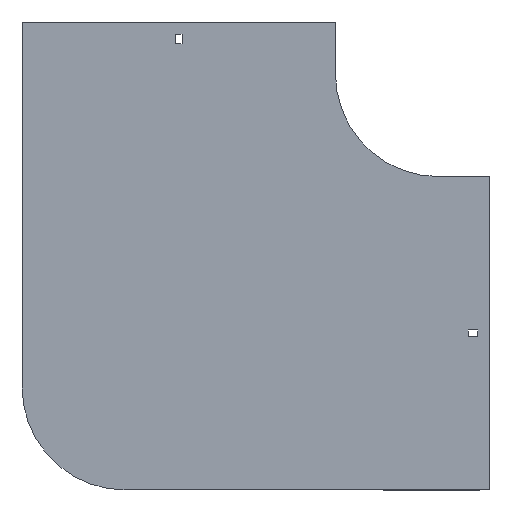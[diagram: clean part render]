
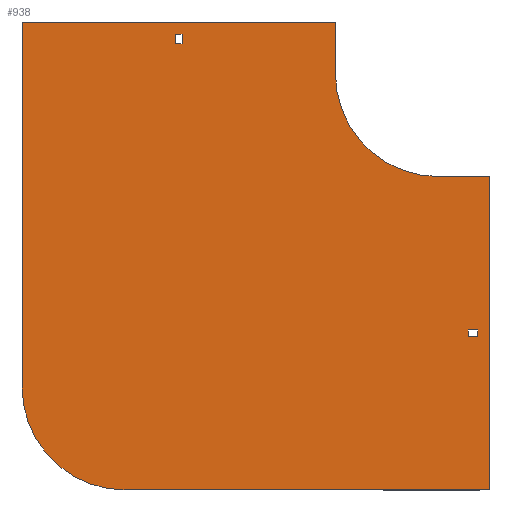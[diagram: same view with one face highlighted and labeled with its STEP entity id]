
A CAD part, front view. The second image highlights one B-rep face of the part: STEP entity #938.
In plain terms, the highlighted planar face has unit normal (0, -1, 0).
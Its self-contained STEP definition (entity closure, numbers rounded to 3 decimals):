
#1 = VERTEX_POINT ( 'NONE', #119 ) ;
#13 = EDGE_CURVE ( 'NONE', #147, #557, #1212, .T. ) ;
#16 = AXIS2_PLACEMENT_3D ( 'NONE', #138, #1343, #784 ) ;
#21 = CARTESIAN_POINT ( 'NONE',  ( -404., 0., 50. ) ) ;
#38 = VECTOR ( 'NONE', #1201, 1000. ) ;
#39 = VECTOR ( 'NONE', #490, 1000. ) ;
#41 = CARTESIAN_POINT ( 'NONE',  ( 38., 0., -248.75 ) ) ;
#48 = EDGE_LOOP ( 'NONE', ( #1076, #209, #1285, #344 ) ) ;
#60 = ORIENTED_EDGE ( 'NONE', *, *, #419, .T. ) ;
#69 = DIRECTION ( 'NONE',  ( 0., -1., 0. ) ) ;
#72 = CARTESIAN_POINT ( 'NONE',  ( 29., 0., -255.25 ) ) ;
#107 = VECTOR ( 'NONE', #417, 1000. ) ;
#111 = EDGE_CURVE ( 'NONE', #1, #452, #981, .T. ) ;
#119 = CARTESIAN_POINT ( 'NONE',  ( 38., 0., -255.25 ) ) ;
#138 = CARTESIAN_POINT ( 'NONE',  ( 0., 0., 0. ) ) ;
#141 = VERTEX_POINT ( 'NONE', #244 ) ;
#147 = VERTEX_POINT ( 'NONE', #681 ) ;
#158 = DIRECTION ( 'NONE',  ( -1., 0., 0. ) ) ;
#183 = CARTESIAN_POINT ( 'NONE',  ( -255.25, 0., 29. ) ) ;
#184 = CARTESIAN_POINT ( 'NONE',  ( -404., 0., -304. ) ) ;
#209 = ORIENTED_EDGE ( 'NONE', *, *, #466, .F. ) ;
#211 = ORIENTED_EDGE ( 'NONE', *, *, #698, .F. ) ;
#212 = VERTEX_POINT ( 'NONE', #1252 ) ;
#217 = CIRCLE ( 'NONE', #398, 100. ) ;
#218 = VERTEX_POINT ( 'NONE', #72 ) ;
#229 = VECTOR ( 'NONE', #158, 1000. ) ;
#244 = CARTESIAN_POINT ( 'NONE',  ( 50., 0., -100. ) ) ;
#269 = DIRECTION ( 'NONE',  ( 0., 0., -1. ) ) ;
#281 = VECTOR ( 'NONE', #1280, 1000. ) ;
#284 = ORIENTED_EDGE ( 'NONE', *, *, #817, .F. ) ;
#290 = CARTESIAN_POINT ( 'NONE',  ( 29., 0., -248.75 ) ) ;
#292 = DIRECTION ( 'NONE',  ( 0., 0., -1. ) ) ;
#329 = ORIENTED_EDGE ( 'NONE', *, *, #1042, .F. ) ;
#339 = CARTESIAN_POINT ( 'NONE',  ( 38., 0., -255.25 ) ) ;
#342 = CARTESIAN_POINT ( 'NONE',  ( -248.75, 0., 38. ) ) ;
#344 = ORIENTED_EDGE ( 'NONE', *, *, #1381, .F. ) ;
#370 = VECTOR ( 'NONE', #1018, 1000. ) ;
#372 = FACE_BOUND ( 'NONE', #1242, .T. ) ;
#383 = EDGE_CURVE ( 'NONE', #642, #608, #217, .T. ) ;
#398 = AXIS2_PLACEMENT_3D ( 'NONE', #1074, #627, #446 ) ;
#417 = DIRECTION ( 'NONE',  ( 0., 0., 1. ) ) ;
#419 = EDGE_CURVE ( 'NONE', #898, #685, #802, .T. ) ;
#423 = EDGE_CURVE ( 'NONE', #685, #926, #1324, .T. ) ;
#445 = CARTESIAN_POINT ( 'NONE',  ( -255.25, 0., 38. ) ) ;
#446 = DIRECTION ( 'NONE',  ( 0., 0., 1. ) ) ;
#452 = VERTEX_POINT ( 'NONE', #41 ) ;
#456 = LINE ( 'NONE', #990, #651 ) ;
#466 = EDGE_CURVE ( 'NONE', #218, #1, #678, .T. ) ;
#467 = DIRECTION ( 'NONE',  ( 1., 0., 0. ) ) ;
#472 = CARTESIAN_POINT ( 'NONE',  ( 29., 0., -248.75 ) ) ;
#482 = CARTESIAN_POINT ( 'NONE',  ( -255.25, 0., 29. ) ) ;
#490 = DIRECTION ( 'NONE',  ( 0., 0., -1. ) ) ;
#492 = VERTEX_POINT ( 'NONE', #1332 ) ;
#497 = CARTESIAN_POINT ( 'NONE',  ( 0., 0., 0. ) ) ;
#503 = LINE ( 'NONE', #943, #1151 ) ;
#511 = VECTOR ( 'NONE', #1316, 1000. ) ;
#518 = ORIENTED_EDGE ( 'NONE', *, *, #1102, .F. ) ;
#533 = VECTOR ( 'NONE', #779, 1000. ) ;
#552 = LINE ( 'NONE', #1314, #107 ) ;
#557 = VERTEX_POINT ( 'NONE', #1143 ) ;
#593 = EDGE_CURVE ( 'NONE', #1273, #218, #1073, .T. ) ;
#595 = ORIENTED_EDGE ( 'NONE', *, *, #383, .F. ) ;
#608 = VERTEX_POINT ( 'NONE', #184 ) ;
#622 = CARTESIAN_POINT ( 'NONE',  ( 0., 0., -100. ) ) ;
#627 = DIRECTION ( 'NONE',  ( 0., 1., 0. ) ) ;
#631 = VECTOR ( 'NONE', #1240, 1000. ) ;
#634 = CIRCLE ( 'NONE', #16, 100. ) ;
#642 = VERTEX_POINT ( 'NONE', #1174 ) ;
#650 = LINE ( 'NONE', #739, #1307 ) ;
#651 = VECTOR ( 'NONE', #1229, 1000. ) ;
#664 = EDGE_CURVE ( 'NONE', #926, #786, #552, .T. ) ;
#672 = VECTOR ( 'NONE', #467, 1000. ) ;
#678 = LINE ( 'NONE', #1230, #672 ) ;
#681 = CARTESIAN_POINT ( 'NONE',  ( -404., 0., 50. ) ) ;
#685 = VERTEX_POINT ( 'NONE', #1300 ) ;
#693 = VECTOR ( 'NONE', #1191, 1000. ) ;
#698 = EDGE_CURVE ( 'NONE', #141, #1291, #980, .T. ) ;
#711 = ORIENTED_EDGE ( 'NONE', *, *, #846, .F. ) ;
#731 = LINE ( 'NONE', #622, #281 ) ;
#739 = CARTESIAN_POINT ( 'NONE',  ( 50., 0., -404. ) ) ;
#779 = DIRECTION ( 'NONE',  ( 0., 0., -1. ) ) ;
#784 = DIRECTION ( 'NONE',  ( 0., 0., -1. ) ) ;
#786 = VERTEX_POINT ( 'NONE', #445 ) ;
#789 = CARTESIAN_POINT ( 'NONE',  ( -404., 0., -304. ) ) ;
#791 = ORIENTED_EDGE ( 'NONE', *, *, #1008, .F. ) ;
#802 = LINE ( 'NONE', #1012, #533 ) ;
#807 = FACE_OUTER_BOUND ( 'NONE', #1354, .T. ) ;
#817 = EDGE_CURVE ( 'NONE', #212, #492, #634, .T. ) ;
#820 = LINE ( 'NONE', #290, #229 ) ;
#831 = PLANE ( 'NONE',  #1265 ) ;
#846 = EDGE_CURVE ( 'NONE', #608, #147, #1238, .T. ) ;
#860 = EDGE_CURVE ( 'NONE', #786, #898, #456, .T. ) ;
#864 = CARTESIAN_POINT ( 'NONE',  ( 50., 0., -100. ) ) ;
#883 = CARTESIAN_POINT ( 'NONE',  ( 50., 0., -404. ) ) ;
#898 = VERTEX_POINT ( 'NONE', #342 ) ;
#926 = VERTEX_POINT ( 'NONE', #183 ) ;
#931 = ORIENTED_EDGE ( 'NONE', *, *, #13, .F. ) ;
#938 = ADVANCED_FACE ( 'NONE', ( #372, #807, #1062 ), #831, .T. ) ;
#943 = CARTESIAN_POINT ( 'NONE',  ( -100., 0., 50. ) ) ;
#963 = DIRECTION ( 'NONE',  ( -1., 0., 0. ) ) ;
#980 = LINE ( 'NONE', #864, #693 ) ;
#981 = LINE ( 'NONE', #339, #38 ) ;
#990 = CARTESIAN_POINT ( 'NONE',  ( -255.25, 0., 38. ) ) ;
#1008 = EDGE_CURVE ( 'NONE', #557, #212, #503, .T. ) ;
#1012 = CARTESIAN_POINT ( 'NONE',  ( -248.75, 0., 29. ) ) ;
#1018 = DIRECTION ( 'NONE',  ( 0., 0., 1. ) ) ;
#1042 = EDGE_CURVE ( 'NONE', #492, #141, #731, .T. ) ;
#1062 = FACE_BOUND ( 'NONE', #48, .T. ) ;
#1073 = LINE ( 'NONE', #1266, #39 ) ;
#1074 = CARTESIAN_POINT ( 'NONE',  ( -304., 0., -304. ) ) ;
#1076 = ORIENTED_EDGE ( 'NONE', *, *, #111, .F. ) ;
#1081 = ORIENTED_EDGE ( 'NONE', *, *, #860, .T. ) ;
#1102 = EDGE_CURVE ( 'NONE', #1291, #642, #650, .T. ) ;
#1143 = CARTESIAN_POINT ( 'NONE',  ( -100., 0., 50. ) ) ;
#1148 = ORIENTED_EDGE ( 'NONE', *, *, #423, .T. ) ;
#1151 = VECTOR ( 'NONE', #292, 1000. ) ;
#1174 = CARTESIAN_POINT ( 'NONE',  ( -304., 0., -404. ) ) ;
#1191 = DIRECTION ( 'NONE',  ( 0., 0., -1. ) ) ;
#1193 = ORIENTED_EDGE ( 'NONE', *, *, #664, .T. ) ;
#1201 = DIRECTION ( 'NONE',  ( 0., 0., 1. ) ) ;
#1212 = LINE ( 'NONE', #21, #511 ) ;
#1229 = DIRECTION ( 'NONE',  ( 1., 0., 0. ) ) ;
#1230 = CARTESIAN_POINT ( 'NONE',  ( 29., 0., -255.25 ) ) ;
#1238 = LINE ( 'NONE', #789, #370 ) ;
#1240 = DIRECTION ( 'NONE',  ( -1., 0., 0. ) ) ;
#1242 = EDGE_LOOP ( 'NONE', ( #1193, #1081, #60, #1148 ) ) ;
#1252 = CARTESIAN_POINT ( 'NONE',  ( -100., 0., 0. ) ) ;
#1265 = AXIS2_PLACEMENT_3D ( 'NONE', #497, #69, #269 ) ;
#1266 = CARTESIAN_POINT ( 'NONE',  ( 29., 0., -255.25 ) ) ;
#1273 = VERTEX_POINT ( 'NONE', #472 ) ;
#1280 = DIRECTION ( 'NONE',  ( 1., 0., 0. ) ) ;
#1285 = ORIENTED_EDGE ( 'NONE', *, *, #593, .F. ) ;
#1291 = VERTEX_POINT ( 'NONE', #883 ) ;
#1300 = CARTESIAN_POINT ( 'NONE',  ( -248.75, 0., 29. ) ) ;
#1307 = VECTOR ( 'NONE', #963, 1000. ) ;
#1314 = CARTESIAN_POINT ( 'NONE',  ( -255.25, 0., 29. ) ) ;
#1316 = DIRECTION ( 'NONE',  ( 1., 0., 0. ) ) ;
#1324 = LINE ( 'NONE', #482, #631 ) ;
#1332 = CARTESIAN_POINT ( 'NONE',  ( 0., 0., -100. ) ) ;
#1343 = DIRECTION ( 'NONE',  ( 0., -1., 0. ) ) ;
#1354 = EDGE_LOOP ( 'NONE', ( #931, #711, #595, #518, #211, #329, #284, #791 ) ) ;
#1381 = EDGE_CURVE ( 'NONE', #452, #1273, #820, .T. ) ;
